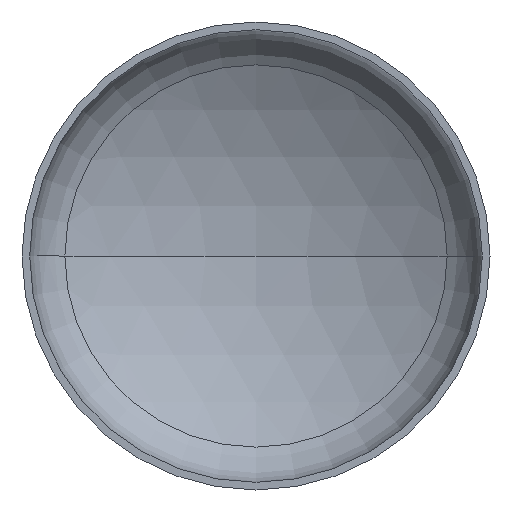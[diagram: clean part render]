
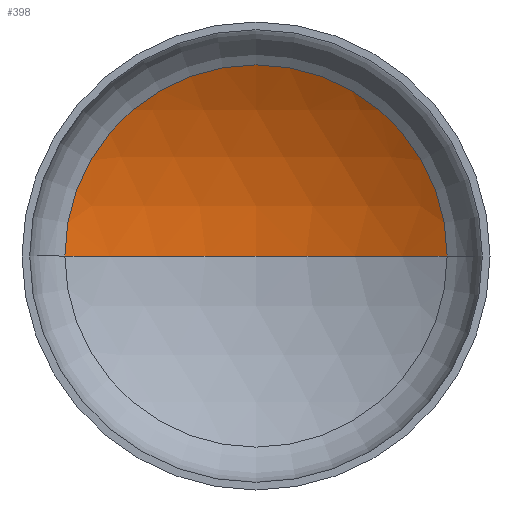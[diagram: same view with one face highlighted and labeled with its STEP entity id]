
A CAD part, front view. The second image highlights one B-rep face of the part: STEP entity #398.
In plain terms, the highlighted spherical face has radius 2240 mm.
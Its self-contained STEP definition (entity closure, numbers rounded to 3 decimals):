
#7 = CARTESIAN_POINT ( 'NONE',  ( 0., 509.748, 0. ) ) ;
#12 = EDGE_LOOP ( 'NONE', ( #121, #67, #52 ) ) ;
#16 = AXIS2_PLACEMENT_3D ( 'NONE', #247, #400, #76 ) ;
#52 = ORIENTED_EDGE ( 'NONE', *, *, #150, .T. ) ;
#67 = ORIENTED_EDGE ( 'NONE', *, *, #157, .T. ) ;
#74 = AXIS2_PLACEMENT_3D ( 'NONE', #312, #338, #205 ) ;
#76 = DIRECTION ( 'NONE',  ( 1., 0., 0. ) ) ;
#77 = AXIS2_PLACEMENT_3D ( 'NONE', #7, #334, #397 ) ;
#121 = ORIENTED_EDGE ( 'NONE', *, *, #353, .F. ) ;
#123 = VERTEX_POINT ( 'NONE', #311 ) ;
#127 = CARTESIAN_POINT ( 'NONE',  ( 0., -1416.382, 0. ) ) ;
#131 = VERTEX_POINT ( 'NONE', #308 ) ;
#136 = FACE_OUTER_BOUND ( 'NONE', #12, .T. ) ;
#145 = SPHERICAL_SURFACE ( 'NONE', #394, 2240. ) ;
#150 = EDGE_CURVE ( 'NONE', #131, #123, #337, .T. ) ;
#157 = EDGE_CURVE ( 'NONE', #298, #131, #387, .T. ) ;
#164 = DIRECTION ( 'NONE',  ( 0., 0., -1. ) ) ;
#194 = CIRCLE ( 'NONE', #16, 2240. ) ;
#205 = DIRECTION ( 'NONE',  ( -1., 0., 0. ) ) ;
#247 = CARTESIAN_POINT ( 'NONE',  ( 0., -1416.382, 0. ) ) ;
#298 = VERTEX_POINT ( 'NONE', #392 ) ;
#308 = CARTESIAN_POINT ( 'NONE',  ( 1143.514, 509.748, 0. ) ) ;
#311 = CARTESIAN_POINT ( 'NONE',  ( -1143.514, 509.748, 0. ) ) ;
#312 = CARTESIAN_POINT ( 'NONE',  ( 0., -1416.382, 0. ) ) ;
#334 = DIRECTION ( 'NONE',  ( 0., -1., 0. ) ) ;
#337 = CIRCLE ( 'NONE', #77, 1143.514 ) ;
#338 = DIRECTION ( 'NONE',  ( 0., 0., -1. ) ) ;
#353 = EDGE_CURVE ( 'NONE', #298, #123, #194, .T. ) ;
#384 = DIRECTION ( 'NONE',  ( -1., 0., 0. ) ) ;
#387 = CIRCLE ( 'NONE', #74, 2240. ) ;
#392 = CARTESIAN_POINT ( 'NONE',  ( 0., 823.618, 0. ) ) ;
#394 = AXIS2_PLACEMENT_3D ( 'NONE', #127, #164, #384 ) ;
#397 = DIRECTION ( 'NONE',  ( 1., 0., 0. ) ) ;
#398 = ADVANCED_FACE ( 'NONE', ( #136 ), #145, .F. ) ;
#400 = DIRECTION ( 'NONE',  ( 0., 0., 1. ) ) ;
